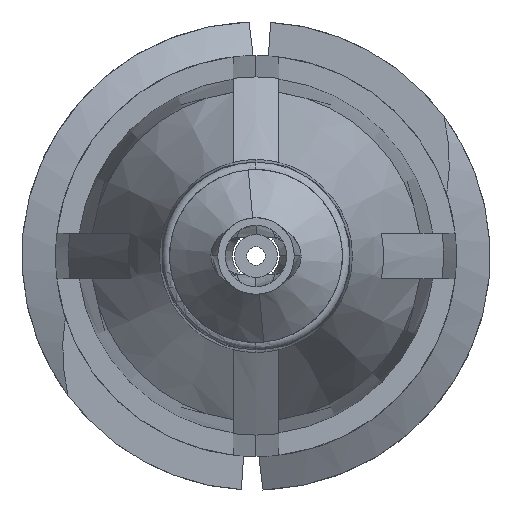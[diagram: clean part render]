
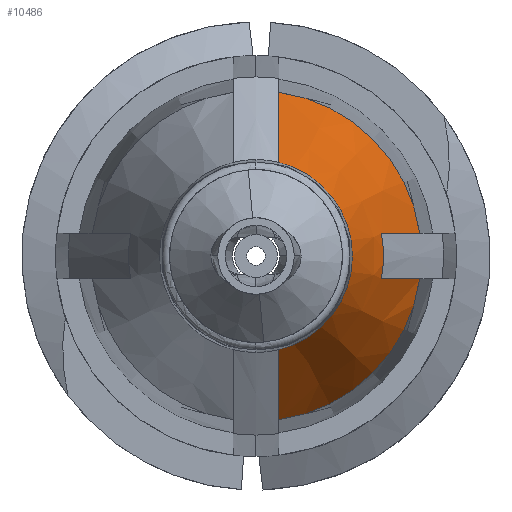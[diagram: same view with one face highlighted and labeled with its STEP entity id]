
A CAD part, front view. The second image highlights one B-rep face of the part: STEP entity #10486.
In plain terms, the highlighted conical face has half-angle 20 degrees and reference radius 2.745 mm.
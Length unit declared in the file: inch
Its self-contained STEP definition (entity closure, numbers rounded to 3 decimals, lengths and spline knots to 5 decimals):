
#33 = CARTESIAN_POINT ( 'NONE',  ( 0.015, -0.48863, 0.07664 ) ) ;
#122 = DIRECTION ( 'NONE',  ( 0., 1., 0. ) ) ;
#127 = CARTESIAN_POINT ( 'NONE',  ( 0.08198, -0.47395, 0.015 ) ) ;
#224 = ORIENTED_EDGE ( 'NONE', *, *, #9909, .F. ) ;
#264 = ORIENTED_EDGE ( 'NONE', *, *, #15380, .F. ) ;
#390 = CARTESIAN_POINT ( 'NONE',  ( 0., -0.406, 0. ) ) ;
#409 = B_SPLINE_CURVE_WITH_KNOTS ( 'NONE', 3,
 ( #12876, #33, #1315, #9655 ),
 .UNSPECIFIED., .F., .F.,
 ( 4, 4 ),
 ( 0.00282, 0.00617 ),
 .UNSPECIFIED. ) ;
#603 = VERTEX_POINT ( 'NONE', #10602 ) ;
#660 = VERTEX_POINT ( 'NONE', #14993 ) ;
#792 = ORIENTED_EDGE ( 'NONE', *, *, #14346, .F. ) ;
#981 = EDGE_CURVE ( 'NONE', #7606, #4663, #8546, .T. ) ;
#1315 = CARTESIAN_POINT ( 'NONE',  ( 0.015, -0.44732, 0.09185 ) ) ;
#1487 = CARTESIAN_POINT ( 'NONE',  ( 0.10703, -0.406, -0.015 ) ) ;
#1553 = EDGE_CURVE ( 'NONE', #12371, #13237, #12942, .T. ) ;
#2230 = AXIS2_PLACEMENT_3D ( 'NONE', #4751, #15332, #11959 ) ;
#2343 = CARTESIAN_POINT ( 'NONE',  ( 0.08198, -0.47395, -0.015 ) ) ;
#2521 = AXIS2_PLACEMENT_3D ( 'NONE', #9694, #122, #11878 ) ;
#3267 = DIRECTION ( 'NONE',  ( 0., 1., 0. ) ) ;
#3495 = VERTEX_POINT ( 'NONE', #13720 ) ;
#3981 = CARTESIAN_POINT ( 'NONE',  ( 0.0987, -0.42866, -0.015 ) ) ;
#4015 = FACE_OUTER_BOUND ( 'NONE', #6078, .T. ) ;
#4506 = AXIS2_PLACEMENT_3D ( 'NONE', #390, #8727, #4966 ) ;
#4663 = VERTEX_POINT ( 'NONE', #8862 ) ;
#4671 = DIRECTION ( 'NONE',  ( 0., 1., 0. ) ) ;
#4751 = CARTESIAN_POINT ( 'NONE',  ( 0., -0.406, 0. ) ) ;
#4820 = CARTESIAN_POINT ( 'NONE',  ( 0., -0.52985, 0. ) ) ;
#4844 = ORIENTED_EDGE ( 'NONE', *, *, #981, .F. ) ;
#4966 = DIRECTION ( 'NONE',  ( 0., 0., 1. ) ) ;
#5024 = CARTESIAN_POINT ( 'NONE',  ( 0.015, -0.44732, -0.09185 ) ) ;
#5076 = CARTESIAN_POINT ( 'NONE',  ( 0.015, -0.406, -0.10703 ) ) ;
#5468 = B_SPLINE_CURVE_WITH_KNOTS ( 'NONE', 3,
 ( #13269, #13325, #6213, #127 ),
 .UNSPECIFIED., .F., .F.,
 ( 4, 4 ),
 ( 0.00343, 0.00527 ),
 .UNSPECIFIED. ) ;
#5535 = CIRCLE ( 'NONE', #2521, 0.08335 ) ;
#5608 = AXIS2_PLACEMENT_3D ( 'NONE', #4820, #4671, #12928 ) ;
#6078 = EDGE_LOOP ( 'NONE', ( #10110, #7973, #10350, #792, #264, #11144, #224, #4844 ) ) ;
#6213 = CARTESIAN_POINT ( 'NONE',  ( 0.09036, -0.45131, 0.015 ) ) ;
#6318 = CARTESIAN_POINT ( 'NONE',  ( 0.015, -0.406, 0.10703 ) ) ;
#6474 = CARTESIAN_POINT ( 'NONE',  ( 0.015, -0.406, -0.10703 ) ) ;
#6636 = CIRCLE ( 'NONE', #10949, 0.10808 ) ;
#6979 = DIRECTION ( 'NONE',  ( 0., 0., 1. ) ) ;
#7178 = B_SPLINE_CURVE_WITH_KNOTS ( 'NONE', 3,
 ( #10935, #14536, #3981, #1487 ),
 .UNSPECIFIED., .F., .F.,
 ( 4, 4 ),
 ( 0.00247, 0.00431 ),
 .UNSPECIFIED. ) ;
#7441 = CARTESIAN_POINT ( 'NONE',  ( 0.015, -0.52985, -0.06119 ) ) ;
#7606 = VERTEX_POINT ( 'NONE', #6318 ) ;
#7801 = EDGE_CURVE ( 'NONE', #603, #7606, #409, .T. ) ;
#7973 = ORIENTED_EDGE ( 'NONE', *, *, #13078, .T. ) ;
#7982 = CARTESIAN_POINT ( 'NONE',  ( 0., -0.406, 0. ) ) ;
#8546 = CIRCLE ( 'NONE', #4506, 0.10808 ) ;
#8727 = DIRECTION ( 'NONE',  ( 0., 1., 0. ) ) ;
#8862 = CARTESIAN_POINT ( 'NONE',  ( 0.10703, -0.406, 0.015 ) ) ;
#9107 = CARTESIAN_POINT ( 'NONE',  ( 0.015, -0.52985, -0.06119 ) ) ;
#9277 = EDGE_CURVE ( 'NONE', #3495, #12079, #5535, .T. ) ;
#9655 = CARTESIAN_POINT ( 'NONE',  ( 0.015, -0.406, 0.10703 ) ) ;
#9694 = CARTESIAN_POINT ( 'NONE',  ( 0., -0.47395, 0. ) ) ;
#9909 = EDGE_CURVE ( 'NONE', #4663, #3495, #5468, .T. ) ;
#10110 = ORIENTED_EDGE ( 'NONE', *, *, #7801, .F. ) ;
#10350 = ORIENTED_EDGE ( 'NONE', *, *, #1553, .T. ) ;
#10486 = ADVANCED_FACE ( 'NONE', ( #4015 ), #13119, .T. ) ;
#10602 = CARTESIAN_POINT ( 'NONE',  ( 0.015, -0.52985, 0.06119 ) ) ;
#10935 = CARTESIAN_POINT ( 'NONE',  ( 0.08198, -0.47395, -0.015 ) ) ;
#10949 = AXIS2_PLACEMENT_3D ( 'NONE', #7982, #3267, #6979 ) ;
#11144 = ORIENTED_EDGE ( 'NONE', *, *, #9277, .F. ) ;
#11878 = DIRECTION ( 'NONE',  ( 0., 0., -1. ) ) ;
#11959 = DIRECTION ( 'NONE',  ( 0., 0., 1. ) ) ;
#12079 = VERTEX_POINT ( 'NONE', #2343 ) ;
#12133 = CARTESIAN_POINT ( 'NONE',  ( 0.015, -0.48863, -0.07664 ) ) ;
#12371 = VERTEX_POINT ( 'NONE', #9107 ) ;
#12876 = CARTESIAN_POINT ( 'NONE',  ( 0.015, -0.52985, 0.06119 ) ) ;
#12928 = DIRECTION ( 'NONE',  ( 0., 0., 1. ) ) ;
#12942 = B_SPLINE_CURVE_WITH_KNOTS ( 'NONE', 3,
 ( #7441, #12133, #5024, #5076 ),
 .UNSPECIFIED., .F., .F.,
 ( 4, 4 ),
 ( 0.00282, 0.00617 ),
 .UNSPECIFIED. ) ;
#13078 = EDGE_CURVE ( 'NONE', #603, #12371, #13887, .T. ) ;
#13119 = CONICAL_SURFACE ( 'NONE', #2230, 0.10808, 0.349 ) ;
#13237 = VERTEX_POINT ( 'NONE', #6474 ) ;
#13269 = CARTESIAN_POINT ( 'NONE',  ( 0.10703, -0.406, 0.015 ) ) ;
#13325 = CARTESIAN_POINT ( 'NONE',  ( 0.0987, -0.42866, 0.015 ) ) ;
#13720 = CARTESIAN_POINT ( 'NONE',  ( 0.08198, -0.47395, 0.015 ) ) ;
#13887 = CIRCLE ( 'NONE', #5608, 0.063 ) ;
#14346 = EDGE_CURVE ( 'NONE', #660, #13237, #6636, .T. ) ;
#14536 = CARTESIAN_POINT ( 'NONE',  ( 0.09036, -0.45131, -0.015 ) ) ;
#14993 = CARTESIAN_POINT ( 'NONE',  ( 0.10703, -0.406, -0.015 ) ) ;
#15332 = DIRECTION ( 'NONE',  ( 0., 1., 0. ) ) ;
#15380 = EDGE_CURVE ( 'NONE', #12079, #660, #7178, .T. ) ;
